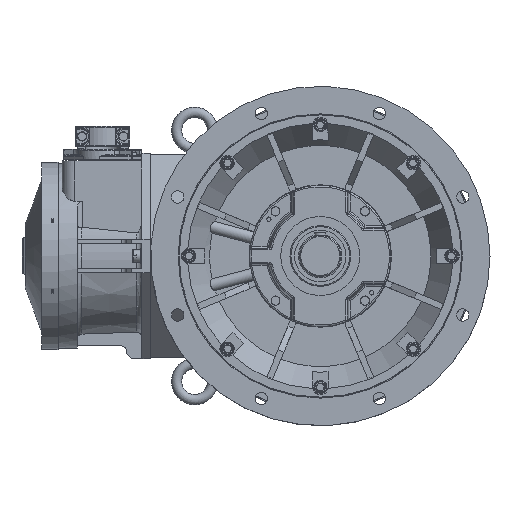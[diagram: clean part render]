
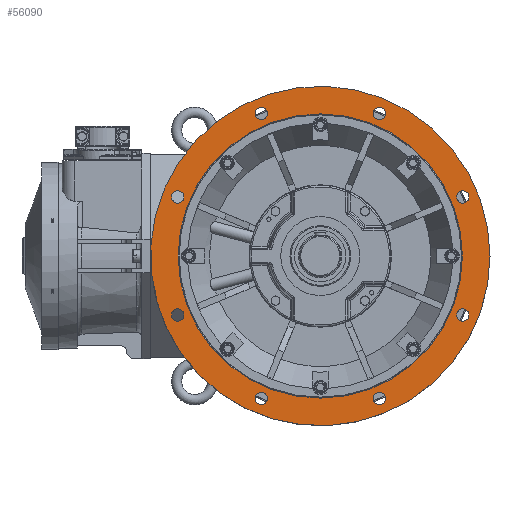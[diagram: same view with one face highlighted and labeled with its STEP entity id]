
A CAD part, left-side view. The second image highlights one B-rep face of the part: STEP entity #56090.
In plain terms, the highlighted planar face has unit normal (-1, 0, 0).
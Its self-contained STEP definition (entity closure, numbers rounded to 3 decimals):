
#3372=CIRCLE('',#59535,12.);
#3374=CIRCLE('',#59538,12.);
#3376=CIRCLE('',#59541,12.);
#3378=CIRCLE('',#59544,12.);
#3380=CIRCLE('',#59547,12.);
#3382=CIRCLE('',#59550,12.);
#3384=CIRCLE('',#59553,12.);
#3386=CIRCLE('',#59556,12.);
#3406=CIRCLE('',#59594,276.402);
#3407=CIRCLE('',#59595,330.);
#11472=ORIENTED_EDGE('',*,*,#19488,.F.);
#11473=ORIENTED_EDGE('',*,*,#19490,.F.);
#11474=ORIENTED_EDGE('',*,*,#19492,.F.);
#11475=ORIENTED_EDGE('',*,*,#19494,.F.);
#11476=ORIENTED_EDGE('',*,*,#19496,.F.);
#11477=ORIENTED_EDGE('',*,*,#19498,.F.);
#11478=ORIENTED_EDGE('',*,*,#19500,.F.);
#11479=ORIENTED_EDGE('',*,*,#19502,.F.);
#11480=ORIENTED_EDGE('',*,*,#19522,.F.);
#11481=ORIENTED_EDGE('',*,*,#19523,.T.);
#19488=EDGE_CURVE('',#24086,#24086,#3372,.T.);
#19490=EDGE_CURVE('',#24088,#24088,#3374,.T.);
#19492=EDGE_CURVE('',#24090,#24090,#3376,.T.);
#19494=EDGE_CURVE('',#24092,#24092,#3378,.T.);
#19496=EDGE_CURVE('',#24094,#24094,#3380,.T.);
#19498=EDGE_CURVE('',#24096,#24096,#3382,.T.);
#19500=EDGE_CURVE('',#24098,#24098,#3384,.T.);
#19502=EDGE_CURVE('',#24100,#24100,#3386,.T.);
#19522=EDGE_CURVE('',#24120,#24120,#3406,.T.);
#19523=EDGE_CURVE('',#24121,#24121,#3407,.F.);
#24086=VERTEX_POINT('',#84360);
#24088=VERTEX_POINT('',#84365);
#24090=VERTEX_POINT('',#84370);
#24092=VERTEX_POINT('',#84375);
#24094=VERTEX_POINT('',#84380);
#24096=VERTEX_POINT('',#84385);
#24098=VERTEX_POINT('',#84390);
#24100=VERTEX_POINT('',#84395);
#24120=VERTEX_POINT('',#84453);
#24121=VERTEX_POINT('',#84455);
#32457=EDGE_LOOP('',(#11472));
#32458=EDGE_LOOP('',(#11473));
#32459=EDGE_LOOP('',(#11474));
#32460=EDGE_LOOP('',(#11475));
#32461=EDGE_LOOP('',(#11476));
#32462=EDGE_LOOP('',(#11477));
#32463=EDGE_LOOP('',(#11478));
#32464=EDGE_LOOP('',(#11479));
#32465=EDGE_LOOP('',(#11480));
#32466=EDGE_LOOP('',(#11481));
#35352=FACE_BOUND('',#32457,.T.);
#35353=FACE_BOUND('',#32458,.T.);
#35354=FACE_BOUND('',#32459,.T.);
#35355=FACE_BOUND('',#32460,.T.);
#35356=FACE_BOUND('',#32461,.T.);
#35357=FACE_BOUND('',#32462,.T.);
#35358=FACE_BOUND('',#32463,.T.);
#35359=FACE_BOUND('',#32464,.T.);
#35360=FACE_BOUND('',#32465,.T.);
#35361=FACE_BOUND('',#32466,.T.);
#37492=PLANE('',#59593);
#56090=ADVANCED_FACE('',(#35352,#35353,#35354,#35355,#35356,#35357,#35358,
#35359,#35360,#35361),#37492,.F.);
#59535=AXIS2_PLACEMENT_3D('',#84359,#68267,#68268);
#59538=AXIS2_PLACEMENT_3D('',#84364,#68273,#68274);
#59541=AXIS2_PLACEMENT_3D('',#84369,#68279,#68280);
#59544=AXIS2_PLACEMENT_3D('',#84374,#68285,#68286);
#59547=AXIS2_PLACEMENT_3D('',#84379,#68291,#68292);
#59550=AXIS2_PLACEMENT_3D('',#84384,#68297,#68298);
#59553=AXIS2_PLACEMENT_3D('',#84389,#68303,#68304);
#59556=AXIS2_PLACEMENT_3D('',#84394,#68309,#68310);
#59593=AXIS2_PLACEMENT_3D('',#84451,#68383,#68384);
#59594=AXIS2_PLACEMENT_3D('',#84452,#68385,#68386);
#59595=AXIS2_PLACEMENT_3D('',#84454,#68387,#68388);
#68267=DIRECTION('',(-1.,0.,0.));
#68268=DIRECTION('',(0.,0.,1.));
#68273=DIRECTION('',(-1.,0.,0.));
#68274=DIRECTION('',(0.,0.,1.));
#68279=DIRECTION('',(-1.,0.,0.));
#68280=DIRECTION('',(0.,0.,1.));
#68285=DIRECTION('',(-1.,0.,0.));
#68286=DIRECTION('',(0.,0.,1.));
#68291=DIRECTION('',(-1.,0.,0.));
#68292=DIRECTION('',(0.,0.,1.));
#68297=DIRECTION('',(-1.,0.,0.));
#68298=DIRECTION('',(0.,0.,1.));
#68303=DIRECTION('',(-1.,0.,0.));
#68304=DIRECTION('',(0.,0.,1.));
#68309=DIRECTION('',(-1.,0.,0.));
#68310=DIRECTION('',(0.,0.,1.));
#68383=DIRECTION('',(1.,0.,0.));
#68384=DIRECTION('',(0.,-1.,0.));
#68385=DIRECTION('',(-1.,0.,0.));
#68386=DIRECTION('',(0.,1.,0.));
#68387=DIRECTION('',(1.,0.,0.));
#68388=DIRECTION('',(0.,-1.,0.));
#84359=CARTESIAN_POINT('',(-89.5,114.805,277.164));
#84360=CARTESIAN_POINT('',(-89.5,114.805,289.164));
#84364=CARTESIAN_POINT('',(-89.5,-114.805,277.164));
#84365=CARTESIAN_POINT('',(-89.5,-114.805,289.164));
#84369=CARTESIAN_POINT('',(-89.5,-277.164,114.805));
#84370=CARTESIAN_POINT('',(-89.5,-277.164,126.805));
#84374=CARTESIAN_POINT('',(-89.5,-277.164,-114.805));
#84375=CARTESIAN_POINT('',(-89.5,-277.164,-102.805));
#84379=CARTESIAN_POINT('',(-89.5,-114.805,-277.164));
#84380=CARTESIAN_POINT('',(-89.5,-114.805,-265.164));
#84384=CARTESIAN_POINT('',(-89.5,114.805,-277.164));
#84385=CARTESIAN_POINT('',(-89.5,114.805,-265.164));
#84389=CARTESIAN_POINT('',(-89.5,277.164,-114.805));
#84390=CARTESIAN_POINT('',(-89.5,277.164,-102.805));
#84394=CARTESIAN_POINT('',(-89.5,277.164,114.805));
#84395=CARTESIAN_POINT('',(-89.5,277.164,126.805));
#84451=CARTESIAN_POINT('',(-89.5,276.402,0.));
#84452=CARTESIAN_POINT('',(-89.5,0.,0.));
#84453=CARTESIAN_POINT('',(-89.5,276.402,0.));
#84454=CARTESIAN_POINT('',(-89.5,0.,0.));
#84455=CARTESIAN_POINT('',(-89.5,-330.,0.));
